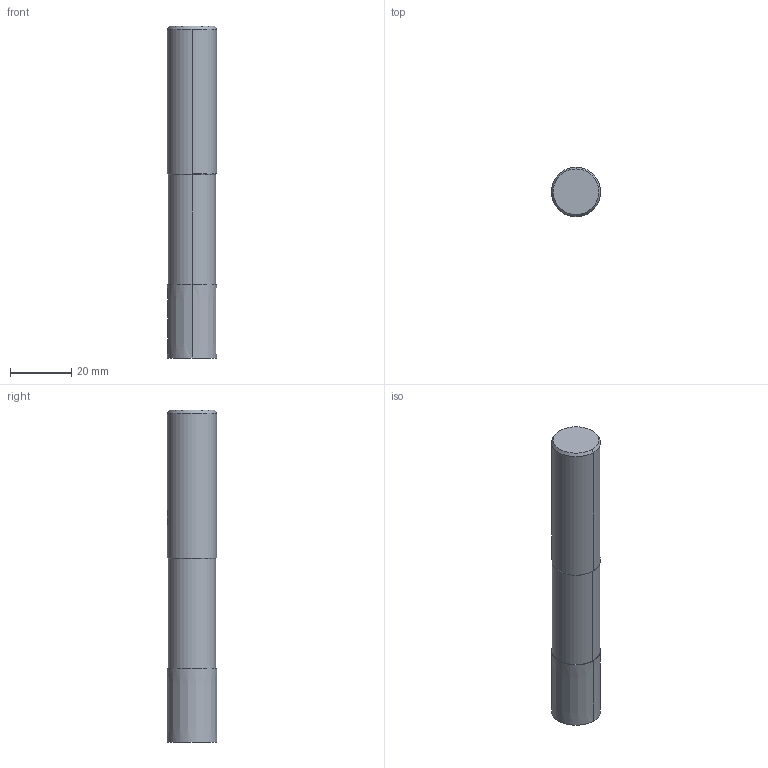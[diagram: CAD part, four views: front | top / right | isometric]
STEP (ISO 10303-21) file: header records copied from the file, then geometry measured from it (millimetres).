
FILE_DESCRIPTION(('no description'),'unknown implementation level');
FILE_NAME('solido9SP_bkL31UR_PXgLs8EGqpqqTI_1.STP',' ',('CIMSOURCE GmbH'),('CADClick - KiM GmbH - www.kimweb.de'),'unknown preprocess','ACIS','unknown authorization');
FILE_SCHEMA(('automotive_design'));
Length unit declared in the file: millimetre
Products named in the file (2): NOCUT; CUT
Bounding box: 16 x 16 x 108 mm (x, y, z)
Volume: 21256.4 mm3; surface area: 7496 mm2
Topology: 2 solids, 2 shells, 41 faces, 93 edges, 58 vertices
Faces by surface type: cylinder 16, cone 14, plane 11
Entity records: 2552 total; most frequent: CARTESIAN_POINT 478, DIRECTION 211, STYLED_ITEM 194, PRESENTATION_STYLE_ASSIGNMENT 194, COLOUR_RGB 194, ORIENTED_EDGE 186, EDGE_CURVE 93, CURVE_STYLE 93
